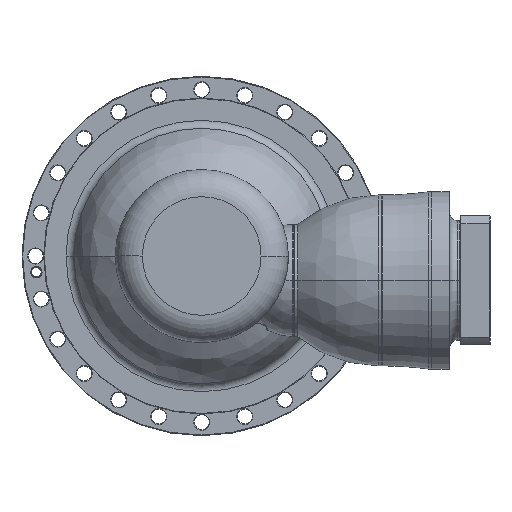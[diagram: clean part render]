
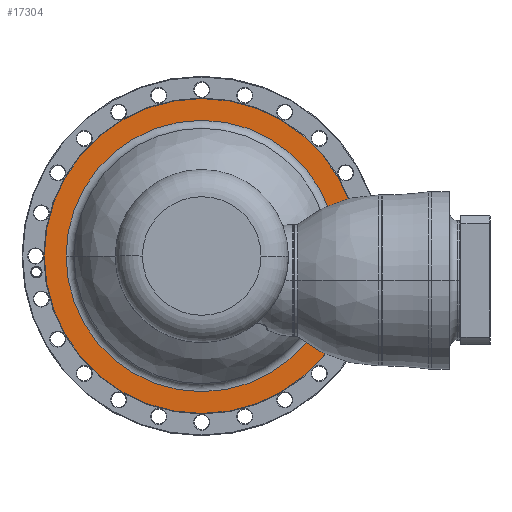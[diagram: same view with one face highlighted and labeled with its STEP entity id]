
A CAD part, left-side view. The second image highlights one B-rep face of the part: STEP entity #17304.
In plain terms, the highlighted planar face has unit normal (-1, 0, 0) as drawn and (1, 0, 0) by its records, which use the part's own axes.
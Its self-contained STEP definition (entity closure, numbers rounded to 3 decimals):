
#16775=CARTESIAN_POINT('',(-137.5,0.,0.));
#16776=DIRECTION('',(-1.,0.,0.));
#16777=DIRECTION('',(0.,-1.,0.));
#16778=AXIS2_PLACEMENT_3D('',#16775,#16776,#16777);
#16780=CARTESIAN_POINT('',(-137.5,0.,0.));
#16781=DIRECTION('',(-1.,0.,0.));
#16782=DIRECTION('',(0.,1.,0.));
#16783=AXIS2_PLACEMENT_3D('',#16780,#16781,#16782);
#16785=CARTESIAN_POINT('',(-137.5,0.,0.));
#16786=DIRECTION('',(1.,0.,0.));
#16787=DIRECTION('',(0.,-1.,0.));
#16788=AXIS2_PLACEMENT_3D('',#16785,#16786,#16787);
#16790=CARTESIAN_POINT('',(-137.5,0.,0.));
#16791=DIRECTION('',(1.,0.,0.));
#16792=DIRECTION('',(0.,1.,0.));
#16793=AXIS2_PLACEMENT_3D('',#16790,#16791,#16792);
#17022=CARTESIAN_POINT('',(-137.5,-232.2,0.));
#17023=CARTESIAN_POINT('',(-137.5,232.2,0.));
#17024=VERTEX_POINT('',#17022);
#17025=VERTEX_POINT('',#17023);
#17070=CARTESIAN_POINT('',(-137.5,-200.055,0.));
#17071=CARTESIAN_POINT('',(-137.5,200.055,0.));
#17072=VERTEX_POINT('',#17070);
#17073=VERTEX_POINT('',#17071);
#17288=CARTESIAN_POINT('',(-137.5,0.,0.));
#17289=DIRECTION('',(1.,0.,0.));
#17290=DIRECTION('',(0.,-1.,0.));
#17291=AXIS2_PLACEMENT_3D('',#17288,#17289,#17290);
#17292=PLANE('',#17291);
#17294=ORIENTED_EDGE('',*,*,#17293,.T.);
#17296=ORIENTED_EDGE('',*,*,#17295,.T.);
#17297=EDGE_LOOP('',(#17294,#17296));
#17298=FACE_OUTER_BOUND('',#17297,.F.);
#17299=ORIENTED_EDGE('',*,*,#17278,.T.);
#17301=ORIENTED_EDGE('',*,*,#17300,.T.);
#17302=EDGE_LOOP('',(#17299,#17301));
#17303=FACE_BOUND('',#17302,.F.);
#17304=ADVANCED_FACE('',(#17298,#17303),#17292,.T.);
#16779=CIRCLE('',#16778,232.2);
#16784=CIRCLE('',#16783,232.2);
#16789=CIRCLE('',#16788,200.055);
#16794=CIRCLE('',#16793,200.055);
#17278=EDGE_CURVE('',#17072,#17073,#16789,.T.);
#17293=EDGE_CURVE('',#17024,#17025,#16779,.T.);
#17295=EDGE_CURVE('',#17025,#17024,#16784,.T.);
#17300=EDGE_CURVE('',#17073,#17072,#16794,.T.);
